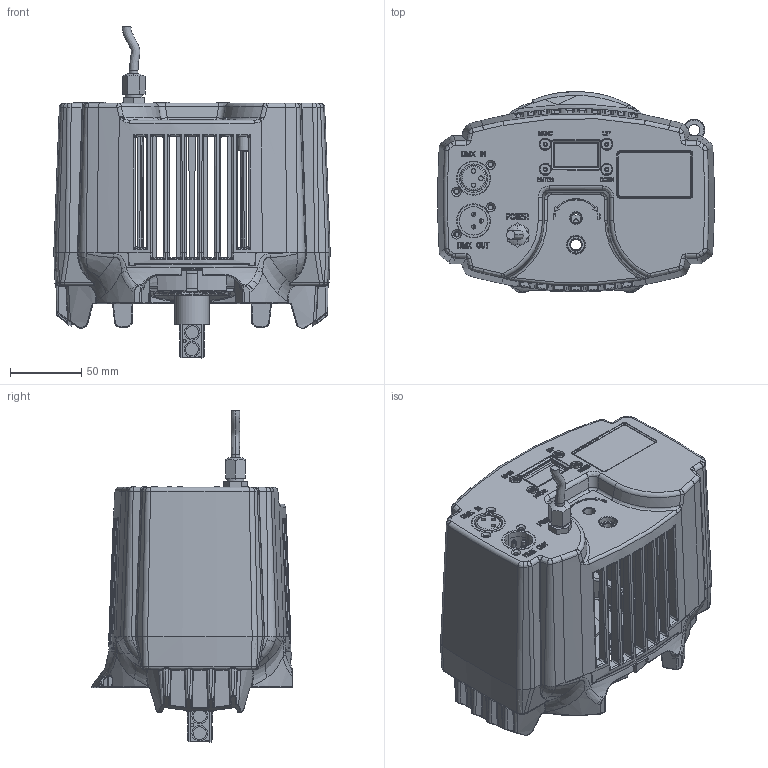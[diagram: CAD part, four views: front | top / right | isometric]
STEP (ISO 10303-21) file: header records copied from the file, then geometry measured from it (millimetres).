
FILE_DESCRIPTION (( 'STEP AP214' ), '1' );
FILE_NAME ('迶譙腑.STEP', '2025-03-19T03:30:50', ( '' ), ( '' ), 'SwSTEP 2.0', 'SolidWorks 2023', '' );
FILE_SCHEMA (( 'AUTOMOTIVE_DESIGN' ));
Length unit declared in the file: millimetre
Products named in the file (14): 彩色玉米灯驱动固定板; DZ-56_^etc-g_asm(2)_etc-g_asm; DENGZH^etc-g_asm(2)_etc-g_asm; XK-13^etc-g_asm(2)_etc-g_asm; LM-0308-PJ_^etc-g_asm(2)_etc-g_asm; 30001; DY-200E_^etc-g_asm(2)_etc-g_asm; PRT0001^etc-g_asm(2)_etc-g_asm; 玉米灯; 1^etc-g_asm(2)_etc-g_asm; etc-g_asm(2)^etc-g_asm; DYGD-3_^etc-g_asm(2)_etc-g_asm; PRT0003^etc-g_asm(2)_etc-g_asm; 34^etc-g_asm(2)_etc-g_asm
Assembly tree (16 placements, depth 3):
  玉米灯
    etc-g_asm(2)^etc-g_asm
      LM-0308-PJ_^etc-g_asm(2)_etc-g_asm
      DZ-56_^etc-g_asm(2)_etc-g_asm
      DYGD-3_^etc-g_asm(2)_etc-g_asm
      DY-200E_^etc-g_asm(2)_etc-g_asm
      1^etc-g_asm(2)_etc-g_asm
      XK-13^etc-g_asm(2)_etc-g_asm
      PRT0001^etc-g_asm(2)_etc-g_asm
      34^etc-g_asm(2)_etc-g_asm
      DENGZH^etc-g_asm(2)_etc-g_asm  x4
      PRT0003^etc-g_asm(2)_etc-g_asm
    彩色玉米灯驱动固定板
    30001
Bounding box: 194.25 x 141.06 x 233.31 mm (x, y, z)
Volume: 469331.3 mm3; surface area: 364417.8 mm2
Topology: 14 solids, 43 shells, 4780 faces, 12317 edges, 7637 vertices
Faces by surface type: plane 1678, bspline 1368, cylinder 1114, torus 284, cone 240, sphere 96
Full cylindrical faces by diameter (mm): 2.5 x4, 3.2 x2
Entity records: 250857 total; most frequent: CARTESIAN_POINT 125391, ORIENTED_EDGE 23947, DIRECTION 15737, EDGE_CURVE 12031, VERTEX_POINT 7489, AXIS2_PLACEMENT_3D 5459, EDGE_LOOP 4946, VECTOR 4819
